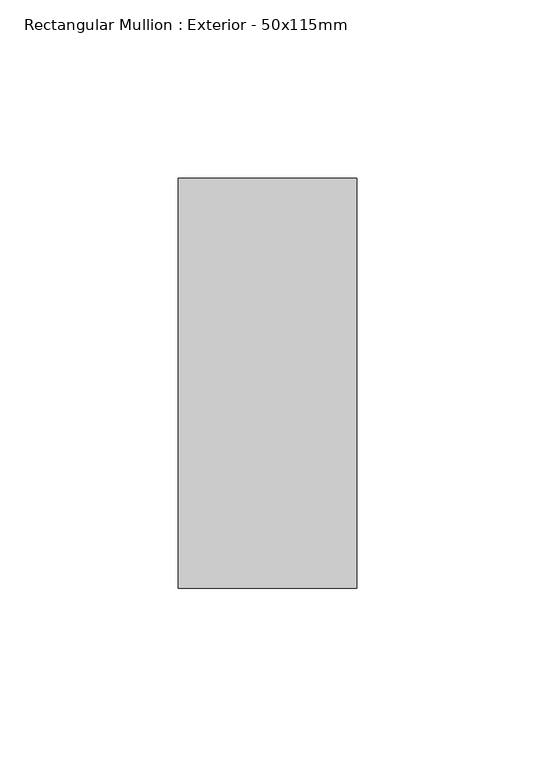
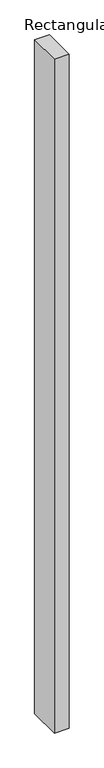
"""IFC4 building model written with IfcOpenShell, lengths in millimetres: member geometry, Rectangular Mullion : Exterior - 50x115mm."""

from ifc_helpers import new_model, si_unit, frame, origin, place, context, project, spatial, polyline, outline, extrude, source, transform, mapped, element, save


def rectangular_mullion_exterior_50x115mm_8158ba62(model_context):
    return source(origin(), model_context, "Body", "SweptSolid", [
        extrude(outline(polyline([(0.0, 115.0), (0.0, 0.0), (-50.0, 0.0), (-50.0, 115.0), (0.0, 115.0)])), frame((0.0, 0.0, -2400.0), z_axis=(0.0, 0.0, 1.0), x_axis=(1.0, 0.0, 0.0)), (0.0, 0.0, 1.0), 2400.0),
    ])


if __name__ == "__main__":
    model = new_model("IFC4")
    model_context = context("Model", 3, world=origin())
    ifc_project = project(units=[si_unit("LENGTHUNIT", "METRE", prefix="MILLI")], contexts=[model_context])
    site = spatial("IfcSite", under=ifc_project)
    building = spatial("IfcBuilding", under=site)
    placement = place(None, origin())
    rectangular_mullion_exterior_50x115mm_shape = rectangular_mullion_exterior_50x115mm_8158ba62(model_context)
    element("IfcMember", 1, ObjectType="Rectangular Mullion : Exterior - 50x115mm", at=placement, inside=building, context=model_context, shape_type="MappedRepresentation", body=[
        mapped(rectangular_mullion_exterior_50x115mm_shape, transform((0.0, 0.0, 0.0), x_axis=(1.0, 0.0, 0.0), y_axis=(0.0, 1.0, 0.0), z_axis=(0.0, 0.0, 1.0))),
    ])
    save(model, "model.ifc")
